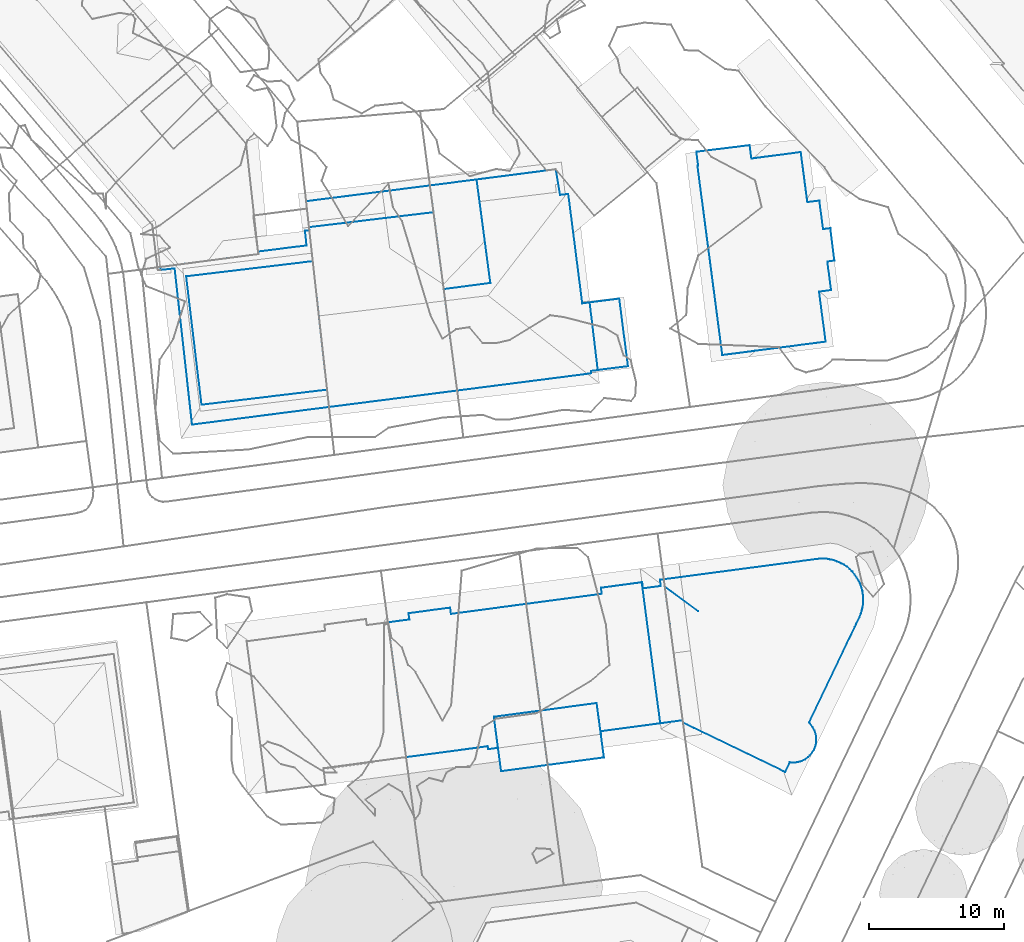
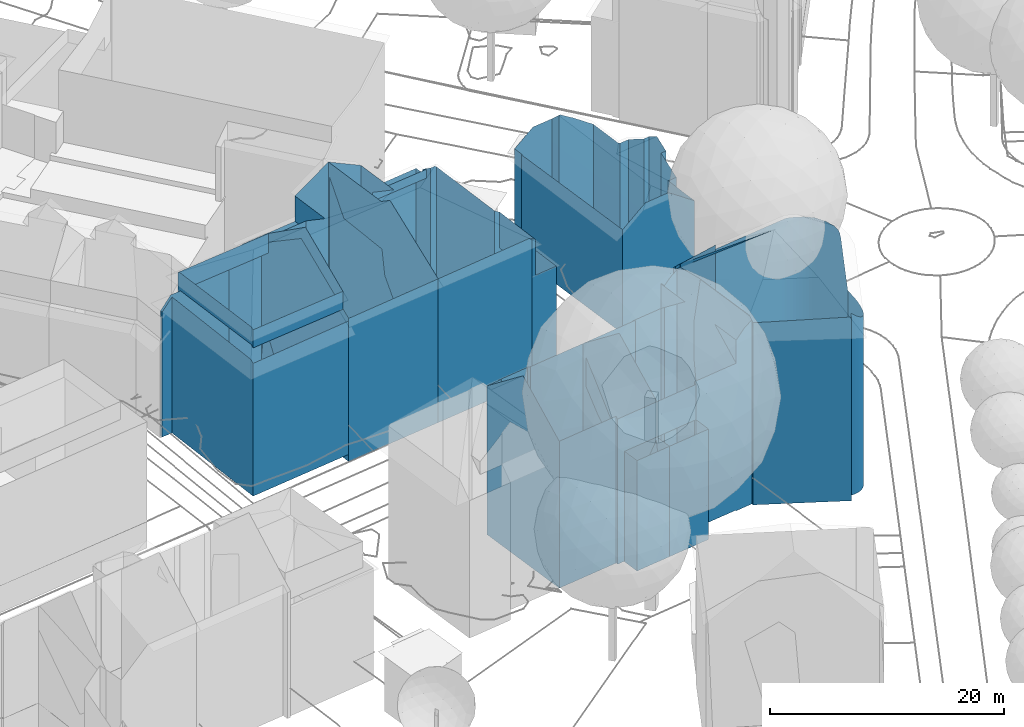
# Not in any storey, part 43 of 494: 7 walls.
"""IFC2X3 model written with IfcOpenShell, lengths in metres."""

from ifc_helpers import new_model, si_unit, frame, origin_with_axes, place, context, subcontext, project, faceted_brep, element, save


model = new_model("IFC2X3")

# Units and contexts
model_context = context("Model", 3, precision=1e-05, world=origin_with_axes())
body_context = subcontext(model_context, "Body", "Model", "MODEL_VIEW")
ifc_project = project(units=[si_unit("AREAUNIT", "SQUARE_METRE"), si_unit("LENGTHUNIT", "METRE")], contexts=[model_context])

# Walls
wall_1_placement = place(None, frame((541.9047320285, 175.7068160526, 499.9965), z_axis=(0.0, 0.0, 1.0), x_axis=(1.0, 0.0, 0.0)))
element("IfcWall", 1, at=wall_1_placement, Name="Wall 0", context=body_context, shape_type="Brep", body=[
    faceted_brep([(9.9579999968, -8.871100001, 0.0), (8.5829999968, 1.6055000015, 0.0), (9.9579999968, -8.871100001, -0.078), (10.2969999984, 1.2657000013, 19.3771), (9.9729999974, 1.5058999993, 19.0831), (10.2969999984, 1.2657000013, 19.0301), (5.557, -9.6728000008, 15.1295), (5.5399999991, -9.6748000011, 11.4489), (5.557, -9.6728000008, 0.0), (1.3649999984, -10.2342999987, 15.1295), (1.3649999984, -10.2342999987, 11.4489), (5.5289999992, -9.4618999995, 15.2995), (5.5289999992, -9.4618999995, 7.6502), (5.5289999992, -9.4618999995, 0.0), (5.6139999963, 0.7481000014, 15.4735), (5.5539999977, 1.1992999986, 15.1265), (5.6139999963, 0.7481000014, 0.0), (0.0, 0.0, 15.4715), (2.8939999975, 0.3858000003, 0.0), (0.0, 0.0, 0.0), (2.7019999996, 0.3603999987, 15.4725), (5.7719999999, -11.4081999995, 11.4489), (1.5959999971, -11.9668000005, 11.4489), (5.7719999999, -11.4081999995, -0.055), (5.231999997, -7.3680999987, 0.0), (5.5399999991, -9.6748000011, 0.0), (5.231999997, -7.3680999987, -0.055), (1.057, -7.9266999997, 0.0), (1.057, -7.9266999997, -0.055), (8.6779999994, 1.1552999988, 4.3766), (8.6779999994, 1.1552999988, -0.078), (8.6169999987, 1.6114000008, -0.078), (8.5829999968, 1.6055000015, 15.1245), (8.5829999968, 1.6055000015, 17.7033), (8.6169999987, 1.6114000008, 17.7373), (8.5829999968, 1.6055000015, 5.0415), (8.5829999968, 1.6055000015, -0.078), (9.0219999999, -1.7421000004, 17.7033), (9.9579999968, -8.871100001, 17.7033), (9.5659999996, -5.8876999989, 17.7033), (9.9579999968, -8.871100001, 15.2985), (10.2219999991, 1.8262000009, 18.7872), (10.2219999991, 1.8262000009, 14.0706), (10.0919999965, 1.808600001, 7.8812), (10.2219999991, 1.8262000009, -0.078), (10.2219999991, 1.8262000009, 9.3541), (9.9349999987, 1.7881000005, -0.078), (5.5539999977, 1.1992999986, 0.0), (7.2769999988, 1.4307000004, 8.9801), (7.068, 1.4023999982, 0.0), (7.8509999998, 1.5078999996, 3.7796), (9.2049999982, 1.2256000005, -0.078), (9.9959999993, 1.3321000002, -0.078), (8.6779999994, 1.1552999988, 17.7383), (9.9959999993, 1.3321000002, 15.4745), (9.2049999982, 1.2256000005, 18.2712), (9.9959999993, 1.3321000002, 18.8192), (9.9349999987, 1.7881000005, 18.7872), (9.9729999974, 1.5058999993, 18.7972), (9.9349999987, 1.7881000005, 9.3541), (9.9729999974, 1.5058999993, -0.078), (0.6689999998, -5.0166000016, 0.0), (1.5959999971, -11.9668000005, -0.055), (0.6689999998, -5.0166000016, 19.3361), (11.6259999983, -8.6484000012, 15.2985), (11.6259999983, -8.6484000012, 19.0791), (10.8699999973, -8.7490000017, 18.6262), (11.6259999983, -8.6484000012, -0.078), (11.5799999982, -8.308600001, -0.078), (10.6679999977, -1.5029000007, 19.3701), (11.5799999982, -8.308600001, 19.3891)], [[[0, 1, 2]], [[3, 4, 5]], [[6, 7, 8]], [[7, 9, 10]], [[9, 7, 6]], [[11, 6, 12]], [[6, 8, 12]], [[12, 8, 13]], [[14, 15, 16]], [[17, 18, 19]], [[20, 14, 18]], [[16, 18, 14]], [[21, 22, 23]], [[24, 25, 26]], [[26, 25, 23]], [[23, 25, 7]], [[7, 21, 23]], [[27, 24, 28]], [[29, 30, 31]], [[32, 33, 34]], [[32, 31, 35]], [[1, 35, 31]], [[36, 1, 31]], [[32, 34, 31]], [[33, 32, 37]], [[38, 39, 40]], [[41, 42, 43]], [[44, 43, 45]], [[43, 44, 46]], [[47, 15, 48]], [[49, 47, 48]], [[48, 15, 32]], [[50, 48, 35]], [[50, 1, 49]], [[1, 50, 35]], [[35, 48, 32]], [[50, 49, 48]], [[30, 29, 51]], [[52, 51, 29]], [[29, 53, 52]], [[54, 53, 55]], [[54, 55, 56]], [[53, 54, 52]], [[4, 57, 58]], [[56, 58, 54]], [[54, 58, 57]], [[59, 52, 54]], [[52, 59, 60]], [[59, 54, 57]], [[60, 59, 46]], [[27, 10, 61]], [[22, 10, 62]], [[62, 27, 28]], [[27, 62, 10]], [[10, 9, 63]], [[61, 17, 19]], [[61, 10, 17]], [[10, 63, 17]], [[64, 65, 66]], [[64, 38, 40]], [[38, 64, 66]], [[64, 40, 12]], [[11, 12, 40]], [[12, 0, 67]], [[0, 12, 13]], [[2, 67, 0]], [[12, 67, 64]], [[68, 44, 45]], [[68, 64, 67]], [[68, 45, 64]], [[42, 41, 5]], [[5, 41, 3]], [[42, 5, 69]], [[42, 64, 45]], [[42, 69, 64]], [[70, 65, 64]], [[69, 70, 64]], [[1, 36, 2]], [[4, 58, 5]], [[7, 25, 8]], [[15, 47, 16]], [[17, 20, 18]], [[22, 62, 23]], [[24, 26, 28]], [[31, 34, 53]], [[53, 29, 31]], [[57, 41, 43]], [[59, 57, 43]], [[43, 46, 59]], [[42, 45, 43]]]),
])
wall_2_placement = place(None, frame((531.628732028, 174.3367160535, 499.9965), z_axis=(0.0, 0.0, 1.0), x_axis=(1.0, 0.0, 0.0)))
element("IfcWall", 2, at=wall_2_placement, Name="Wall 0", context=body_context, shape_type="Brep", body=[
    faceted_brep([(11.6409999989, -8.8641999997, 15.1295), (10.0089999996, -9.0820000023, 15.1295), (11.6409999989, -8.8641999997, 11.4489), (9.9089999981, -9.0956999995, 11.4489), (7.4489999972, -9.4248000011, 0.0), (8.1779999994, -9.3271000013, 0.0), (8.1779999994, -9.3271000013, 11.4489), (7.4489999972, -9.4248000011, 15.1295), (7.4199999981, -9.2099000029, 0.0), (7.4199999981, -9.2099000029, 15.3035), (3.7159999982, -9.7030999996, 15.3045), (4.117999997, -9.6504000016, 0.0), (1.3530000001, -10.0175999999, 11.4789), (1.3530000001, -10.0175999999, 15.3055), (1.3530000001, -10.0175999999, 0.0), (1.5299999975, 0.6777999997, 0.0), (1.5299999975, 0.6777999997, 15.1095), (4.6229999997, 1.0898999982, 15.1115), (1.5920000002, 0.2118999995, 15.4685), (1.5920000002, 0.2118999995, 0.0), (0.0, 0.0, 7.7342), (0.8459999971, 0.1132999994, 5.3175), (0.0, 0.0, 0.0), (0.6109999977, 0.0810999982, 15.4685), (10.2760000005, 1.370099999, 0.0), (4.6849999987, 0.623999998, 15.4705), (7.7699999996, 1.0361999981, 15.4705), (10.2760000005, 1.370099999, 15.4715), (10.2760000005, 1.370099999, 11.6039), (4.6229999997, 1.0898999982, 0.0), (11.8719999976, -10.5967000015, 11.4489), (8.4100000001, -11.0595999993, 11.4489), (11.8719999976, -10.5967000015, -0.055), (7.868999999, -7.0195000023, 0.0), (11.3330000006, -6.5566000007, -0.055), (7.868999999, -7.0195000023, -0.055), (8.4100000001, -11.0595999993, -0.055), (0.6779999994, -5.0175999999, 0.0), (0.0, 0.0, 15.4685), (0.6779999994, -5.0175999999, 19.3361), (11.3330000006, -6.5566000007, 0.0), (10.9450000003, -3.6465000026, 19.3361), (4.6849999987, 0.623999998, 0.0)], [[[0, 1, 2]], [[2, 1, 3]], [[4, 5, 6]], [[1, 6, 3]], [[1, 7, 6]], [[4, 6, 7]], [[8, 9, 10]], [[10, 11, 8]], [[12, 10, 13]], [[14, 10, 12]], [[9, 8, 7]], [[7, 8, 4]], [[15, 16, 17]], [[18, 15, 19]], [[20, 21, 22]], [[22, 21, 19]], [[18, 19, 23]], [[23, 19, 21]], [[24, 25, 26]], [[27, 28, 26]], [[17, 25, 29]], [[30, 31, 32]], [[33, 34, 35]], [[31, 6, 5]], [[36, 31, 5]], [[5, 33, 35]], [[5, 35, 36]], [[37, 14, 20]], [[14, 12, 38]], [[39, 38, 12]], [[22, 37, 20]], [[20, 14, 38]], [[39, 12, 13]], [[24, 28, 40]], [[34, 40, 32]], [[28, 32, 40]], [[2, 27, 41]], [[32, 2, 30]], [[2, 32, 27]], [[2, 41, 0]], [[27, 32, 28]], [[11, 10, 14]], [[17, 29, 15]], [[16, 15, 18]], [[20, 38, 23]], [[23, 21, 20]], [[42, 25, 24]], [[28, 24, 26]], [[25, 42, 29]], [[31, 36, 32]], [[40, 34, 33]]]),
])
wall_3_placement = place(None, frame((552.1267320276, 177.5330160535, 499.9185), z_axis=(0.0, 0.0, 1.0), x_axis=(1.0, 0.0, 0.0)))
element("IfcWall", 3, at=wall_3_placement, Name="Wall 0", context=body_context, shape_type="Brep", body=[
    faceted_brep([(6.5009999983, -5.4297000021, 23.7087), (0.0789999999, -0.5859000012, 19.4551), (0.0789999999, -0.5859000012, 19.1081), (12.3239999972, -7.4053000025, 19.0331), (10.7780000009, -10.629900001, 0.0), (13.0519999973, -5.8867000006, 0.0), (10.7780000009, -10.629900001, 19.0161), (13.8939999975, -4.129900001, 8.3332), (13.5289999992, -4.8916000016, 19.0471), (13.612999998, -4.7178000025, 4.7565), (14.175999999, -3.5419999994, 19.0551), (14.1779999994, -3.5381000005, 0.0), (11.2949999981, -12.2226000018, -0.0001), (11.2609999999, -12.3641999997, 17.8052), (11.2609999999, -12.3641999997, -0.0001), (11.2949999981, -12.2226000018, 17.8372), (11.3269999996, -11.933600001, 17.9362), (11.3269999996, -11.933600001, 0.0), (11.3239999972, -11.7871000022, 18.0042), (11.3239999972, -11.7871000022, 0.0), (11.2819999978, -11.4990000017, 0.0), (11.2819999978, -11.4990000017, 18.1702), (11.1919999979, -11.2236000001, 18.3742), (10.879999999, -10.7344000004, 18.8761), (11.057, -10.9648000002, 0.0), (10.879999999, -10.7344000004, 0.0), (10.0779999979, -13.5479000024, 18.3602), (10.2159999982, -13.5029000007, -0.0001), (10.2159999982, -13.5029000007, 18.2542), (10.0779999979, -13.5478000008, -0.0001), (10.4780000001, -13.3769000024, -0.0001), (10.4780000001, -13.3769000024, 18.0702), (10.7159999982, -13.2080000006, -0.0001), (10.7159999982, -13.2080000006, 17.9282), (10.8229999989, -13.1103000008, -0.0001), (10.8229999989, -13.1103000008, 17.8742), (11.0109999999, -12.8877000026, 17.8012), (11.0109999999, -12.8877000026, -0.0001), (11.1559999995, -12.6357000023, -0.0001), (11.1559999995, -12.6357000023, 17.7812), (9.0099999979, -14.3183000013, -0.0001), (9.0099999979, -14.3183000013, 18.9921), (8.9100000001, -14.2705000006, 9.534), (8.8770000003, -14.2539000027, 19.1421), (8.8770000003, -14.2539000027, 11.1659), (8.8770000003, -14.2539000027, -0.0001), (9.3559999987, -13.5976000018, -0.0001), (9.3559999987, -13.5976000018, 18.9971), (9.5009999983, -13.6123000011, 18.8581), (9.5009999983, -13.6123000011, -0.0001), (9.7919999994, -13.6053999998, -0.0001), (9.7919999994, -13.6055000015, 18.5952), (14.2989999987, -3.2842000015, 0.0), (14.3029999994, -3.2763999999, 18.9531), (14.5260000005, -2.8115000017, 0.0), (14.5260000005, -2.8115000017, 18.8461), (14.6259999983, -2.5742000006, 0.0), (14.6259999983, -2.5742000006, 18.8042), (14.7049999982, -2.3291000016, 0.0), (14.7049999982, -2.3280999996, 18.7812), (14.7399999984, -2.1816000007, 0.0), (14.7410000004, -2.1757999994, 18.7802), (2.5260000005, -2.3779000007, 21.6739), (2.5260000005, -2.3779000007, 0.0), (2.2459999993, -11.0516999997, 0.0), (2.254999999, -11.0566000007, 18.9901), (1.4279999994, -10.6562000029, 0.0), (1.4279999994, -10.6562000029, 18.9911), (1.3579999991, -10.134800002, 19.4671), (0.4459999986, -3.3291000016, 19.4481), (0.4459999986, -3.3291000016, 0.0), (13.1369999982, 1.2157999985, 0.0), (13.1380000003, 1.2157999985, 18.7172), (13.2019999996, 1.1807000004, 0.0), (13.2100000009, 1.1757999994, 18.7232), (12.8869999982, 1.3280999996, 18.7182), (12.8869999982, 1.3280999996, 0.0), (12.6279999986, 1.4169999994, 0.0), (12.5350000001, 1.4393999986, 9.4391), (12.3609999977, 1.4814999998, 18.7762), (12.4059999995, 1.4706999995, 18.7692), (12.6279999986, 1.4169999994, 18.7372), (12.3609999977, 1.4814999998, 0.0), (11.6449999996, 1.5351999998, 18.8722), (11.818, 1.5399999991, 0.0), (11.5439999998, 1.5312999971, 0.0), (11.2719999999, 1.498999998, 18.8612), (11.5439999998, 1.5312999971, 18.8622), (11.2719999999, 1.498999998, 0.0), (9.6009999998, 1.2763999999, 18.8722), (9.6290000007, 1.2793000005, 0.0), (12.0910999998, 1.5224999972, 0.0), (12.0910999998, 1.5224999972, 18.8252), (12.1109999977, 1.5194999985, 18.8252), (11.818, 1.5399999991, 18.8462), (13.3759999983, 1.0830000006, 0.0), (13.6019999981, 0.927699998, 0.0), (13.6019999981, 0.927699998, 18.7002), (13.8129999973, 0.753899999, 0.0), (13.9419999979, 0.6259999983, 18.7042), (14.0079999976, 0.5605999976, 18.7092), (13.9589999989, 0.6083999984, 4.6735), (14.0079999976, 0.5605999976, 0.0), (0.0, 0.0, 0.0), (0.0, 0.0, 18.8652), (5.9250000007, 0.7881000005, 0.0), (6.1319999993, 0.8145000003, 18.8702), (0.0789999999, -0.563500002, 19.4551), (0.0789999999, -0.563500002, 0.0), (14.0859999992, 0.4696999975, 18.6932), (14.1840000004, 0.3525999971, 0.0), (14.4619999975, -0.0811000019, 0.0), (14.4619999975, -0.0810000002, 18.6492), (14.5729999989, -0.3144000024, 0.0), (14.3330000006, 0.1405999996, 18.6522), (14.3330000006, 0.1405999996, 0.0), (14.1849999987, 0.3515999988, 18.6712), (14.7509999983, -0.8905999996, 0.0), (14.754999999, -0.9141000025, 18.6462), (14.7819999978, -1.0516999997, 0.0), (14.7339999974, -0.8027000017, 18.6382), (14.7339999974, -0.8027999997, 0.0), (14.6629999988, -0.5547000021, 0.0), (14.6629999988, -0.5547000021, 18.6372), (14.5729999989, -0.313500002, 18.6512), (14.5469999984, -0.2597000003, 18.6592), (14.8029999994, -1.25, 18.7212), (14.8039999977, -1.259800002, 0.0), (14.7630999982, -2.0780999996, 0.0), (14.7630000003, -2.0780999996, 18.7582), (14.7509999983, -2.1289000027, 18.7692), (14.8000000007, -1.8242000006, 18.7252), (14.7760000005, -1.9891999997, 18.7452), (14.8099999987, -1.3104999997, 18.7162), (14.8000000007, -1.8242000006, 0.0), (14.8159999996, -1.567400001, 18.7112), (14.8159999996, -1.567400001, 0.0), (11.1919999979, -11.2236000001, 0.0), (11.057, -10.9648000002, 18.6122), (0.0789999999, -0.5859000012, 0.0), (13.3759999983, 1.0830000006, 18.7102), (13.8129999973, 0.753899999, 18.6952), (14.7740000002, -1.009800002, 18.6542), (14.7819999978, -1.0548, 18.6642), (14.8099999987, -1.3104999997, 0.0)], [[[0, 1, 2]], [[3, 4, 5]], [[6, 4, 3]], [[7, 8, 9]], [[10, 7, 11]], [[11, 7, 9]], [[8, 3, 5]], [[9, 5, 11]], [[12, 13, 14]], [[12, 15, 13]], [[16, 15, 17]], [[15, 12, 17]], [[18, 16, 19]], [[20, 21, 18]], [[22, 21, 20]], [[23, 24, 25]], [[4, 23, 25]], [[26, 27, 28]], [[27, 26, 29]], [[30, 28, 27]], [[30, 31, 28]], [[31, 32, 33]], [[31, 30, 32]], [[34, 35, 33]], [[33, 32, 34]], [[36, 35, 34]], [[37, 36, 34]], [[38, 39, 36]], [[40, 41, 42]], [[43, 44, 41]], [[41, 44, 42]], [[42, 44, 40]], [[44, 45, 40]], [[46, 47, 41]], [[40, 46, 41]], [[48, 46, 49]], [[46, 48, 47]], [[50, 51, 48]], [[48, 49, 50]], [[29, 26, 51]], [[51, 50, 29]], [[10, 52, 53]], [[54, 55, 53]], [[54, 53, 52]], [[56, 57, 54]], [[57, 55, 54]], [[58, 59, 57]], [[58, 57, 56]], [[60, 59, 58]], [[60, 61, 59]], [[2, 1, 62]], [[63, 2, 62]], [[64, 65, 66]], [[66, 67, 68]], [[65, 44, 43]], [[45, 44, 65]], [[65, 64, 45]], [[68, 69, 66]], [[69, 2, 70]], [[71, 72, 73]], [[74, 73, 72]], [[72, 71, 75]], [[75, 71, 76]], [[77, 75, 76]], [[78, 79, 80]], [[78, 80, 81]], [[81, 77, 78]], [[78, 77, 82]], [[83, 84, 85]], [[86, 87, 88]], [[89, 86, 90]], [[86, 88, 90]], [[91, 92, 93]], [[94, 91, 84]], [[83, 94, 84]], [[74, 95, 73]], [[96, 97, 98]], [[99, 100, 101]], [[98, 101, 102]], [[100, 102, 101]], [[103, 104, 105]], [[106, 90, 105]], [[107, 103, 108]], [[104, 103, 107]], [[62, 107, 63]], [[109, 110, 102]], [[111, 112, 113]], [[114, 112, 115]], [[115, 112, 111]], [[116, 114, 110]], [[114, 115, 110]], [[109, 116, 110]], [[117, 118, 119]], [[120, 118, 117]], [[121, 120, 117]], [[122, 123, 121]], [[113, 124, 123]], [[123, 122, 113]], [[124, 113, 125]], [[126, 127, 119]], [[128, 129, 130]], [[130, 60, 128]], [[128, 131, 132]], [[127, 126, 133]], [[131, 128, 134]], [[135, 134, 136]], [[8, 5, 9]], [[10, 8, 7]], [[13, 38, 14]], [[39, 38, 13]], [[16, 17, 19]], [[18, 19, 20]], [[22, 20, 137]], [[138, 137, 24]], [[22, 137, 138]], [[138, 24, 23]], [[6, 23, 4]], [[36, 37, 38]], [[52, 10, 11]], [[139, 2, 63]], [[65, 67, 66]], [[69, 70, 66]], [[2, 139, 70]], [[93, 82, 91]], [[93, 79, 82]], [[81, 75, 77]], [[82, 79, 78]], [[85, 87, 83]], [[88, 87, 85]], [[92, 91, 94]], [[140, 97, 95]], [[140, 95, 74]], [[141, 98, 97]], [[97, 96, 95]], [[141, 99, 98]], [[98, 99, 101]], [[104, 106, 105]], [[89, 90, 106]], [[107, 108, 63]], [[109, 102, 100]], [[112, 125, 113]], [[119, 118, 142]], [[123, 120, 121]], [[143, 119, 142]], [[143, 126, 119]], [[61, 60, 130]], [[129, 128, 132]], [[135, 144, 133]], [[135, 136, 144]], [[133, 144, 127]], [[131, 134, 135]]]),
])
wall_4_placement = place(None, frame((525.5527320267, 205.6209160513, 499.3996), z_axis=(0.0, 0.0, 1.0), x_axis=(1.0, 0.0, 0.0)))
element("IfcWall", 4, at=wall_4_placement, Name="Wall 0", context=body_context, shape_type="Brep", body=[
    faceted_brep([(9.4659999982, -0.8192999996, 0.0048), (0.2149999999, -1.9267999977, 0.0), (9.4659999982, -0.8192999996, 0.0), (11.2259999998, -14.0683999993, 14.9795), (6.5430000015, -14.6679999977, 14.9545), (11.2259999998, -14.0683999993, 5.6204), (11.2259999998, -14.0683999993, 0.005), (1.7030000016, -15.2881000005, 0.005), (1.7030000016, -15.2881000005, 7.4413), (0.1700000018, -1.5302999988, 14.8796), (5.8520000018, -0.8506000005, 14.8806), (0.1700000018, -1.5302999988, 13.9587), (5.6440000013, 0.7178000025, 16.5954), (5.6440000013, 0.7178000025, 13.9586), (6.2019999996, -3.4872999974, 16.5954), (5.8520000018, -0.8506000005, 13.9586), (0.0, 0.0, 0.0), (0.0, 0.0, 13.9587), (9.2019999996, 1.1709000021, 18.6182), (9.2019999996, 1.1709000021, 0.0), (0.9470000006, -8.5067999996, 0.005), (1.7030000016, -15.2881000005, 11.1849), (1.7030000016, -15.2881000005, 14.9285), (0.9470000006, -8.5067999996, 19.4071), (0.2149999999, -1.9267999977, 0.005), (10.3379999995, -7.3817999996, 0.005), (10.1770000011, -6.1688999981, 18.6182), (10.3379999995, -7.3817999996, 19.4071)], [[[0, 1, 2]], [[3, 4, 5]], [[6, 5, 4]], [[6, 4, 7]], [[8, 7, 4]], [[9, 10, 11]], [[10, 12, 13]], [[12, 10, 14]], [[10, 13, 15]], [[16, 17, 13]], [[13, 18, 19]], [[18, 13, 12]], [[13, 19, 16]], [[11, 20, 8]], [[21, 11, 8]], [[7, 8, 20]], [[21, 22, 23]], [[23, 9, 11]], [[11, 24, 20]], [[1, 24, 16]], [[16, 24, 11]], [[11, 17, 16]], [[21, 23, 11]], [[25, 18, 26]], [[0, 18, 25]], [[19, 0, 2]], [[0, 19, 18]], [[3, 26, 27]], [[3, 5, 26]], [[26, 5, 25]], [[25, 5, 6]], [[24, 1, 0]], [[22, 21, 4]], [[21, 8, 4]], [[10, 15, 11]]]),
])
wall_5_placement = place(None, frame((514.7257320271, 200.7361160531, 500.1685), z_axis=(0.0, 0.0, 1.0), x_axis=(1.0, 0.0, 0.0)))
element("IfcWall", 5, at=wall_5_placement, Name="Wall 0", context=body_context, shape_type="Brep", body=[
    faceted_brep([(10.8610000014, 1.5976999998, 13.9717), (10.7399999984, 2.6855999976, 13.0248), (10.8610000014, 1.5976999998, 0.0), (10.7399999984, 2.6855999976, 0.0), (7.2529999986, 1.1455000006, 13.9887), (7.2529999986, 1.1455000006, 0.0), (7.2769999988, 0.9580000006, 0.0), (11.3220000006, 0.4316000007, 0.053), (1.9140000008, -0.6953000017, 0.053), (11.3220000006, 0.4316000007, 0.0), (11.068, 2.7245999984, 0.0), (11.068, 2.7245999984, 13.0248), (1.0610000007, -0.1093000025, 14.1677), (0.0269999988, -0.2246000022, 13.0248), (1.0610000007, -0.1093000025, 10.625), (0.0269999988, -0.2246000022, 0.0), (1.0610000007, -0.1093000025, 0.0), (3.057, -10.2334000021, 0.0531), (1.9140000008, -0.6953000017, 0.0001), (0.0, 0.0, 0.0), (0.0, 0.0, 13.0248), (12.5300000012, -10.4033000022, 3.4757), (9.5249999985, -10.7890000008, 13.8787), (6.5789999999, -11.1669999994, 0.0), (12.5300000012, -10.4033000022, 13.9007), (12.5300000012, -10.4033000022, 10.425), (12.5300000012, -10.4033000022, 6.9503), (12.5300000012, -10.4033000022, 0.0), (2.3530000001, -11.7098999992, 3.3997), (2.3530000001, -11.7098999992, 10.349), (2.3530000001, -11.7098999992, 0.0), (12.3869999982, -9.1162, 0.053), (3.057, -10.2334000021, 0.0), (2.9349999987, -10.7070000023, 16.5144), (2.9349999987, -10.7070000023, 14.6266), (12.436999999, -9.5692999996, 16.5144), (12.436999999, -9.5692999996, 14.6266), (1.0760000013, 0.1415999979, 14.2167), (1.0760000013, 0.1415999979, 0.0), (7.2769999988, 0.9580000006, 14.1527), (1.0610000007, -0.1093000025, 3.5417), (2.3220000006, -11.4365000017, 0.0), (2.3530000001, -11.7098999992, 13.8247), (2.3220000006, -11.4365000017, 14.0637), (2.9069999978, -10.4774999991, 16.6704), (2.9069999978, -10.4774999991, 14.8266), (1.6660000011, -0.2987999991, 16.6514), (1.6429999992, -0.1112999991, 16.5214), (1.686999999, -0.4686999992, 14.8036), (1.6429999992, -0.1112999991, 14.4916), (2.2760000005, -0.0361000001, 16.5224), (2.2760000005, -0.0361000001, 14.4926), (5.5920000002, 0.3603999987, 14.4926), (5.5920000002, 0.3603999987, 16.5224), (11.254999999, 1.0410999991, 16.5214), (11.254999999, 1.0410000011, 14.4916), (11.8409999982, -4.2168000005, 0.053), (12.3869999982, -9.1162, 0.0), (11.8409999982, -4.2168000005, 20.1511)], [[[0, 1, 2]], [[2, 1, 3]], [[2, 4, 0]], [[5, 4, 2]], [[6, 4, 5]], [[7, 8, 9]], [[10, 1, 11]], [[10, 3, 1]], [[12, 13, 14]], [[13, 15, 16]], [[8, 17, 18]], [[19, 13, 20]], [[19, 15, 13]], [[21, 22, 23]], [[24, 22, 25]], [[25, 22, 26]], [[21, 23, 27]], [[28, 23, 29]], [[28, 30, 23]], [[17, 31, 32]], [[33, 34, 35]], [[35, 34, 36]], [[20, 37, 38]], [[38, 19, 20]], [[37, 6, 38]], [[39, 6, 37]], [[40, 28, 29]], [[30, 28, 41]], [[40, 41, 28]], [[29, 42, 43]], [[43, 12, 14]], [[14, 40, 29]], [[16, 41, 40]], [[43, 14, 29]], [[33, 44, 34]], [[45, 34, 44]], [[46, 47, 48]], [[48, 45, 44]], [[49, 48, 47]], [[48, 44, 46]], [[47, 50, 51]], [[51, 49, 47]], [[50, 52, 51]], [[53, 54, 52]], [[55, 52, 54]], [[53, 52, 50]], [[10, 7, 9]], [[7, 10, 11]], [[21, 31, 11]], [[7, 11, 56]], [[11, 55, 21]], [[57, 31, 27]], [[21, 27, 31]], [[56, 11, 31]], [[55, 54, 26]], [[58, 35, 36]], [[55, 26, 21]], [[25, 36, 24]], [[26, 54, 25]], [[36, 25, 58]], [[54, 58, 25]], [[6, 39, 4]], [[8, 18, 9]], [[40, 14, 13]], [[13, 16, 40]], [[17, 32, 18]], [[42, 23, 22]], [[21, 26, 22]], [[42, 29, 23]], [[31, 57, 32]]]),
])
wall_6_placement = place(None, frame((534.7547320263, 206.7918160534, 499.1526), z_axis=(0.0, 0.0, 1.0), x_axis=(1.0, 0.0, 0.0)))
element("IfcWall", 6, at=wall_6_placement, Name="Wall 0", context=body_context, shape_type="Brep", body=[
    faceted_brep([(11.8640000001, -8.6875, 0.7669), (12.4660000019, -13.7118999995, 0.7669), (11.8640000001, -8.6875, 0.252), (10.2719999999, -0.6240000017, 3.9806), (11.3170000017, -8.7578000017, 0.252), (10.2719999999, -0.6240000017, 0.252), (10.5329999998, -2.6581999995, 15.1555), (11.3170000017, -8.7578000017, 9.5271), (11.9840000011, -13.9561000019, 7.6712), (11.9690000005, -13.8388999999, 9.5271), (11.9840000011, -13.9561000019, 11.3809), (11.9609999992, -13.7773000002, 0.252), (11.9840000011, -13.9561000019, 3.9606), (11.9840000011, -13.9561000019, 0.252), (9.3029999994, 0.0742000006, 14.7566), (9.5300000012, 0.1006000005, 14.2056), (9.3029999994, 0.0742000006, 14.2056), (9.3709999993, -0.4979999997, 15.1275), (9.3709999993, -0.4979999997, 14.2056), (3.6799999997, -1.1797000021, 15.1276), (3.6799999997, -1.1797000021, 14.2056), (4.4849999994, -7.2412, 0.0), (4.4849999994, -7.2412, 0.252), (1.0230000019, -7.7012000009, 0.252), (1.0230000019, -7.7012000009, 0.0), (3.4640000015, 0.4452999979, 0.247), (3.6799999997, -1.1797000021, 0.252), (3.4640000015, 0.4452999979, 0.0), (3.7320000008, -1.5742000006, 0.249), (3.4640000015, 0.4452999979, 14.2056), (3.4640000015, 0.4452999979, 17.0344), (4.069000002, -4.1104000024, 17.0344), (14.0639999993, -8.4043000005, 11.0119), (14.7080000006, -13.4238000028, 11.0119), (14.0639999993, -8.4043000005, 0.7669), (11.8640000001, -8.6875, 14.7566), (12.4660000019, -13.7118999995, 14.7566), (11.8640000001, -8.6875, 11.0119), (11.9840000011, -13.9561000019, 15.0915), (11.6950000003, -13.9932000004, 15.2835), (2.0240000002, -15.2393000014, 0.252), (2.0240000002, -15.2393000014, 15.2265), (11.6950000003, -13.9932000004, 0.252), (14.7080000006, -13.4238000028, 0.7669), (11.9609999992, -13.7773000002, 6.7443), (12.4660000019, -13.7118999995, 0.252), (11.9609999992, -13.7773000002, 15.0925), (12.4660000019, -13.7118999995, 11.0119), (10.1030000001, -0.6465000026, 15.2795), (10.2719999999, -0.6240000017, 15.1665), (9.6669999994, -0.7021000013, 15.2815), (9.6669999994, -0.7021000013, 0.252), (10.0350000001, -0.6553000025, 0.252), (0.9750000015, -7.3398000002, 18.8652), (1.1359999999, -8.5527000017, 19.6541), (0.0, 0.0, 18.8652), (0.0, 0.0, 14.2056), (0.0, 0.0, 0.0), (9.5300000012, 0.1006000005, 0.252), (9.3420000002, 1.2011999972, 0.247), (9.3420000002, 1.2011999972, 14.2056), (9.5300000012, 0.1006000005, 14.7566), (11.3170000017, -8.7578000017, 15.1205)], [[[0, 1, 2]], [[3, 4, 5]], [[4, 3, 6]], [[4, 6, 7]], [[8, 9, 10]], [[9, 8, 11]], [[12, 13, 11]], [[14, 15, 16]], [[17, 14, 18]], [[19, 17, 20]], [[21, 22, 23]], [[23, 24, 21]], [[25, 26, 27]], [[27, 26, 28]], [[22, 21, 28]], [[29, 30, 19]], [[31, 19, 30]], [[19, 20, 29]], [[32, 33, 34]], [[35, 36, 37]], [[10, 38, 39]], [[40, 12, 8]], [[8, 10, 41]], [[40, 8, 41]], [[13, 12, 42]], [[42, 12, 40]], [[10, 39, 41]], [[43, 44, 1]], [[44, 43, 33]], [[45, 1, 11]], [[11, 1, 44]], [[44, 36, 46]], [[47, 44, 33]], [[44, 47, 36]], [[48, 49, 50]], [[49, 3, 51]], [[52, 51, 3]], [[5, 52, 3]], [[49, 51, 50]], [[23, 41, 53]], [[23, 40, 41]], [[53, 41, 54]], [[53, 55, 56]], [[53, 56, 23]], [[57, 23, 56]], [[57, 24, 23]], [[58, 59, 50]], [[50, 51, 58]], [[15, 59, 60]], [[15, 50, 59]], [[50, 15, 61]], [[55, 30, 29]], [[57, 56, 25]], [[29, 56, 55]], [[59, 56, 29]], [[59, 25, 56]], [[57, 25, 27]], [[29, 60, 59]], [[7, 62, 35]], [[4, 7, 0]], [[35, 37, 7]], [[32, 34, 37]], [[2, 4, 0]], [[0, 7, 37]], [[1, 45, 2]], [[3, 49, 6]], [[62, 7, 6]], [[46, 9, 44]], [[46, 38, 9]], [[9, 11, 44]], [[9, 38, 10]], [[8, 12, 11]], [[61, 15, 14]], [[14, 16, 18]], [[17, 18, 20]], [[21, 27, 28]], [[33, 43, 34]], [[36, 47, 37]], [[34, 0, 37]]]),
])
wall_7_placement = place(None, frame((554.542732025, 209.2947160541, 500.1665), z_axis=(0.0, 0.0, 1.0), x_axis=(1.0, 0.0, 0.0)))
element("IfcWall", 7, at=wall_7_placement, Name="Wall 0", context=body_context, shape_type="Brep", body=[
    faceted_brep([(7.3859999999, -14.3955000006, 0.0), (7.3540000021, -14.3994000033, 12.2188), (6.8150000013, -14.4687000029, 0.0), (4.0899999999, -0.5019000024, 0.0), (4.9910000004, -0.3838, 12.6318), (5.0860000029, -0.371100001, 2.7037), (5.6160000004, -0.3017000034, 12.2178), (5.8390000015, -0.2734000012, 0.0), (6.768000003, -14.4746000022, 12.6068), (5.5360000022, -14.6338, 0.0), (4.376000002, -14.7842000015, 12.5938), (4.3740000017, -14.7842000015, 0.0), (7.7590000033, -0.0215000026, 10.632), (7.9680000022, -1.6181000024, 10.623), (7.7590000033, -0.0215000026, 0.0), (7.9079999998, -1.1601000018, 4.4786), (8.0240000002, -2.0400000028, 0.0), (8.2140000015, -3.4931000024, 10.613), (8.2149999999, -3.5039000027, 0.0), (4.1570000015, -14.813500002, 8.6111), (3.9120000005, -14.8447000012, 12.2858), (3.8100000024, -14.8584000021, 0.0), (3.9600000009, 0.4882999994, 0.0), (3.9600000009, 0.4882999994, 12.2188), (4.0899999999, -0.5019000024, 13.1537), (1.949000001, 0.2402999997, 12.2188), (1.949000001, 0.2402999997, 0.0), (4.2050000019, -0.4873000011, 13.1537), (2.9970000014, -14.9629000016, 11.6169), (2.870000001, -14.9795000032, 2.3587), (1.9290000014, -15.1006000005, 10.8279), (1.9290000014, -15.1006000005, 0.0), (0.0, 0.0, 0.0), (0.0, 0.0, 10.779), (0.1340000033, -1.0215000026, 10.785), (0.1340000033, -1.0215000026, 0.0), (0.0840000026, -1.0273000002, 0.0), (0.0840000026, -1.0273000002, 10.748), (0.8530000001, -6.8906000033, 0.0), (9.1740000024, -10.3828000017, 10.533), (9.1190000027, -10.3896000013, 0.0), (10.0100000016, -10.2734000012, 10.537), (10.0100000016, -10.2734000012, 0.0), (9.7320000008, -8.1513000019, 11.8568), (9.7320000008, -8.1513000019, 0.0), (10.251000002, -8.0830000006, 11.8598), (10.251000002, -8.0830000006, 0.0), (10.0930000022, -6.8008000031, 12.6568), (9.9539999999, -5.6728000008, 0.0), (9.4160000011, -5.7441000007, 11.9978), (9.7170000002, -5.7041000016, 11.9968), (9.4160000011, -5.7441000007, 0.0), (9.1380000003, -3.6220000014, 0.0), (9.1380000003, -3.6220000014, 10.7529), (8.2460000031, -3.7392000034, 0.0), (8.2460000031, -3.7392000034, 10.7569), (9.9539999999, -5.6728000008, 11.9958), (9.6060000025, -14.1084000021, 10.553), (9.6060000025, -14.1084000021, 0.0), (9.1190000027, -10.3896000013, 10.574)], [[[0, 1, 2]], [[3, 4, 5]], [[4, 6, 5]], [[6, 7, 5]], [[5, 7, 3]], [[2, 8, 9]], [[10, 9, 8]], [[10, 11, 9]], [[12, 13, 14]], [[15, 16, 14]], [[15, 17, 16]], [[17, 18, 16]], [[6, 12, 7]], [[12, 14, 7]], [[11, 10, 19]], [[10, 20, 19]], [[20, 21, 19]], [[19, 21, 11]], [[22, 23, 3]], [[24, 3, 23]], [[25, 22, 26]], [[3, 24, 27]], [[21, 20, 28]], [[21, 28, 29]], [[30, 31, 28]], [[29, 28, 31]], [[29, 31, 21]], [[32, 33, 25]], [[26, 32, 25]], [[34, 33, 35]], [[32, 35, 33]], [[36, 37, 35]], [[34, 35, 37]], [[31, 30, 37]], [[38, 31, 37]], [[36, 38, 37]], [[39, 40, 41]], [[41, 40, 42]], [[43, 42, 44]], [[43, 41, 42]], [[45, 44, 46]], [[47, 46, 48]], [[46, 47, 45]], [[49, 50, 51]], [[50, 48, 51]], [[52, 53, 49]], [[49, 51, 52]], [[54, 55, 53]], [[53, 52, 54]], [[55, 18, 17]], [[55, 54, 18]], [[48, 56, 47]], [[57, 1, 58]], [[0, 58, 1]], [[40, 59, 57]], [[58, 40, 57]], [[2, 1, 8]], [[17, 15, 13]], [[13, 15, 14]], [[23, 22, 25]], [[27, 4, 3]], [[43, 44, 45]], [[56, 48, 50]], [[59, 40, 39]]]),
])

save(model, "model.ifc")
